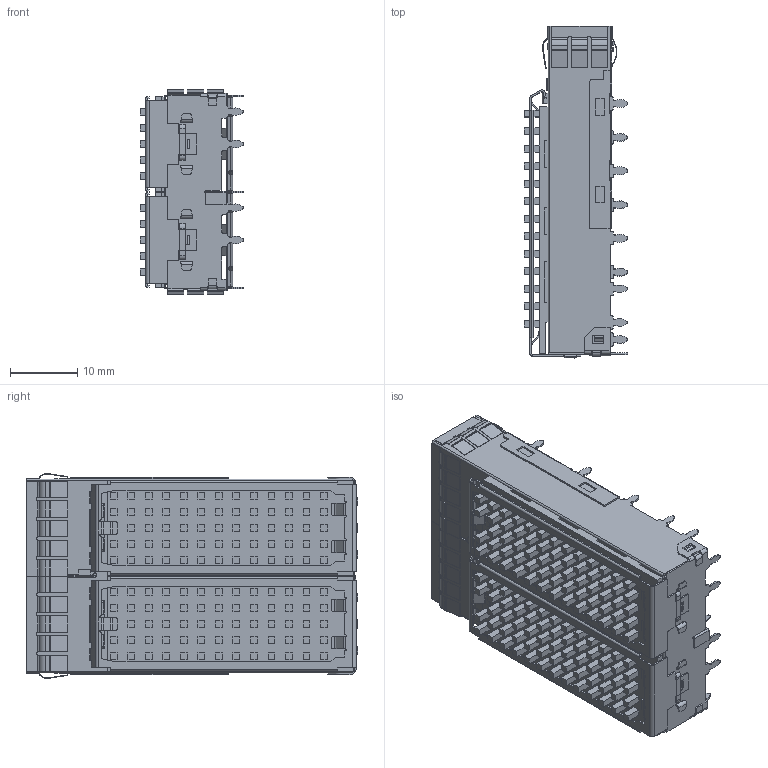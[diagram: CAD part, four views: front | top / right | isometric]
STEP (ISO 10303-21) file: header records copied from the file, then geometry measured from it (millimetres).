
FILE_DESCRIPTION (( 'STEP AP203' ), '1' );
FILE_NAME ('10710612W042-諦誧3D.STEP', '2024-07-09T09:44:45', ( '' ), ( '' ), 'SwSTEP 2.0', 'SolidWorks 2016', '' );
FILE_SCHEMA (( 'CONFIG_CONTROL_DESIGN' ));
Length unit declared in the file: millimetre
Products named in the file (3): 10710612W019植 蚚腔10710612W017腔腔3D_1; 錨璃63^10710612W042; 10710612W042-諦誧3D
Assembly tree (2 placements, depth 2):
  10710612W042-諦誧3D
    10710612W019植 蚚腔10710612W017腔腔3D_1
    錨璃63^10710612W042
Bounding box: 15.3 x 49.23 x 30.31 mm (x, y, z)
Volume: 2158.5 mm3; surface area: 12591.3 mm2
Topology: 2 solids, 3 shells, 2475 faces, 7059 edges, 4620 vertices
Faces by surface type: plane 1651, cylinder 756, bspline 68
Full cylindrical faces by diameter (mm): 2 x4
Entity records: 84443 total; most frequent: CARTESIAN_POINT 20934, ORIENTED_EDGE 14094, DIRECTION 11673, EDGE_CURVE 7055, LINE 5121, VECTOR 5121, VERTEX_POINT 4620, AXIS2_PLACEMENT_3D 3276
